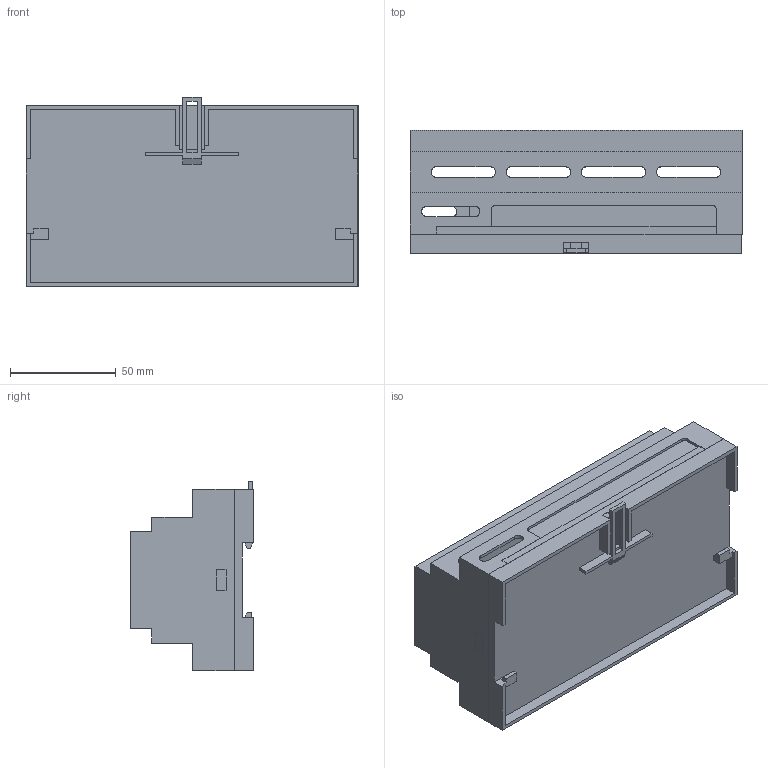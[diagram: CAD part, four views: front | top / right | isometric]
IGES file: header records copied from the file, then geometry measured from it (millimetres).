
Global section: file name: No Iges File Name specified; native system: Autodesk Inventor 2013; preprocessor: AutoDesk Inventor Iges Exporter R2013; author: lzuniga; date: 20130930.134812; units: inch
Bounding box: 157.16 x 58.42 x 89.78 mm (x, y, z)
Volume: 75130.1 mm3; surface area: 101597.1 mm2
Topology: 1 solids, 1 shells, 737 faces, 2007 edges, 1333 vertices
Faces by surface type: bspline 737
